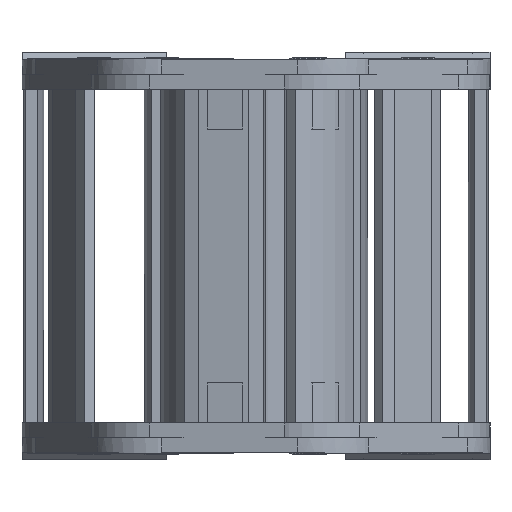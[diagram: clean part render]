
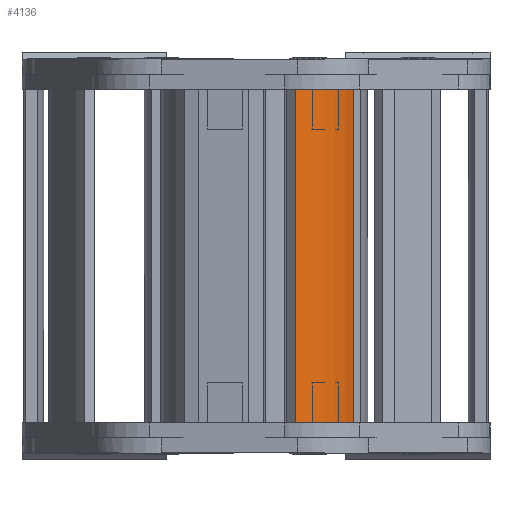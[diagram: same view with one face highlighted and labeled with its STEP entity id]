
A CAD part, left-side view. The second image highlights one B-rep face of the part: STEP entity #4136.
In plain terms, the highlighted cylindrical face has radius 52 mm (diameter 104 mm), a partial arc.
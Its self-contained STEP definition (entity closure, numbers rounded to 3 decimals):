
#3907=CARTESIAN_POINT('',(0.,-103.5,37.5));
#3908=DIRECTION('',(0.,0.,1.));
#3909=DIRECTION('',(0.346,0.938,0.));
#3910=AXIS2_PLACEMENT_3D('',#3907,#3908,#3909);
#3950=DIRECTION('',(0.,0.,-1.));
#3951=VECTOR('',#3950,150.3);
#3952=CARTESIAN_POINT('',(18.,-54.715,37.5));
#3953=LINE('',#3952,#3951);
#3957=DIRECTION('',(0.,0.,1.));
#3958=VECTOR('',#3957,150.3);
#3959=CARTESIAN_POINT('',(-18.,-54.715,-112.8));
#3960=LINE('',#3959,#3958);
#3971=CARTESIAN_POINT('',(0.,-103.5,-112.8));
#3972=DIRECTION('',(0.,0.,-1.));
#3973=DIRECTION('',(-0.346,0.938,0.));
#3974=AXIS2_PLACEMENT_3D('',#3971,#3972,#3973);
#4029=CARTESIAN_POINT('',(18.,-54.715,-112.8));
#4031=VERTEX_POINT('',#4029);
#4032=CARTESIAN_POINT('',(-18.,-54.715,-112.8));
#4033=VERTEX_POINT('',#4032);
#4040=CARTESIAN_POINT('',(18.,-54.715,37.5));
#4041=VERTEX_POINT('',#4040);
#4044=CARTESIAN_POINT('',(-18.,-54.715,37.5));
#4045=VERTEX_POINT('',#4044);
#4122=CARTESIAN_POINT('',(0.,-103.5,-37.8));
#4123=DIRECTION('',(0.,0.,-1.));
#4124=DIRECTION('',(1.,0.,0.));
#4125=AXIS2_PLACEMENT_3D('',#4122,#4123,#4124);
#4126=CYLINDRICAL_SURFACE('',#4125,52.);
#4128=ORIENTED_EDGE('',*,*,#4127,.F.);
#4129=ORIENTED_EDGE('',*,*,#4102,.T.);
#4131=ORIENTED_EDGE('',*,*,#4130,.F.);
#4133=ORIENTED_EDGE('',*,*,#4132,.T.);
#4134=EDGE_LOOP('',(#4128,#4129,#4131,#4133));
#4135=FACE_OUTER_BOUND('',#4134,.F.);
#4136=ADVANCED_FACE('',(#4135),#4126,.T.);
#3911=CIRCLE('',#3910,52.);
#3975=CIRCLE('',#3974,52.);
#4102=EDGE_CURVE('',#4041,#4045,#3911,.T.);
#4127=EDGE_CURVE('',#4041,#4031,#3953,.T.);
#4130=EDGE_CURVE('',#4033,#4045,#3960,.T.);
#4132=EDGE_CURVE('',#4033,#4031,#3975,.T.);
